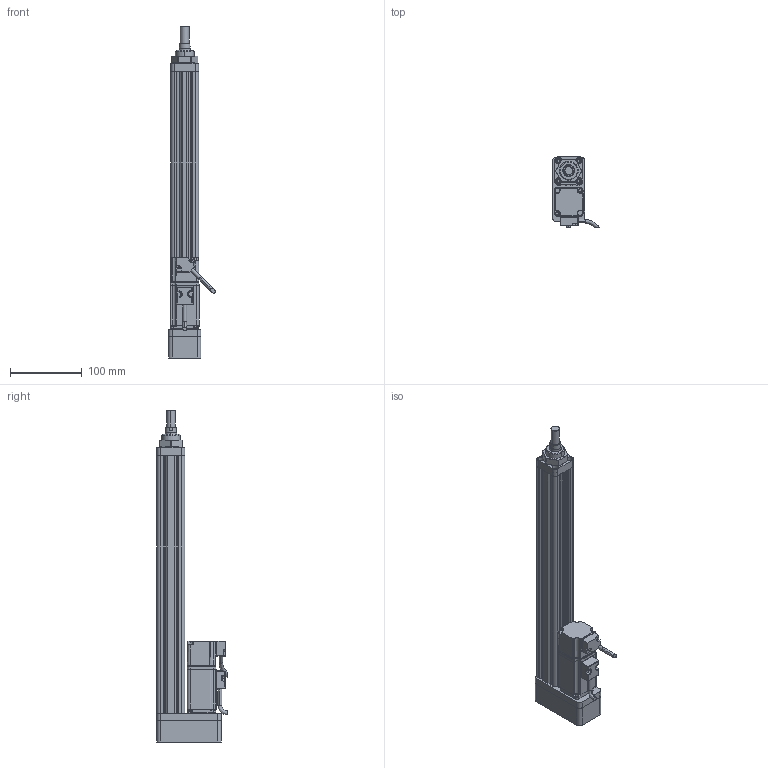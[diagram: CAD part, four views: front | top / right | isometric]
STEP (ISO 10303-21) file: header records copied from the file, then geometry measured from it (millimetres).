
FILE_DESCRIPTION (( 'STEP AP214' ), '1' );
FILE_NAME ('039-S300-D02-B-M4-C1-2.STEP', '2021-02-25T08:55:10', ( '' ), ( '' ), 'SwSTEP 2.0', 'SolidWorks 2018', '' );
FILE_SCHEMA (( 'AUTOMOTIVE_DESIGN' ));
Length unit declared in the file: millimetre
Products named in the file (8): ECMA-CX0401ES-40框號系列機種-100W低慣量系列; CMC039-HXT; CMC039-LJB; CMC039-M261; 039-S300-D02-B-M4-C1-2; CMC039-DT; CMC039-GT; CMC039-FL
Assembly tree (7 placements, depth 2):
  039-S300-D02-B-M4-C1-2
    CMC039-GT
    CMC039-LJB
    CMC039-FL
    CMC039-DT
    ECMA-CX0401ES-40框號系列機種-100W低慣量系列
    CMC039-M261
    CMC039-HXT
Bounding box: 65.33 x 97.89 x 464 mm (x, y, z)
Volume: 588482.4 mm3; surface area: 193737.7 mm2
Topology: 7 solids, 15 shells, 700 faces, 1816 edges, 1128 vertices
Faces by surface type: cylinder 287, plane 270, bspline 84, cone 59
Entity records: 27587 total; most frequent: CARTESIAN_POINT 11136, ORIENTED_EDGE 3566, DIRECTION 2952, EDGE_CURVE 1783, VERTEX_POINT 1128, AXIS2_PLACEMENT_3D 1031, VECTOR 890, LINE 890
